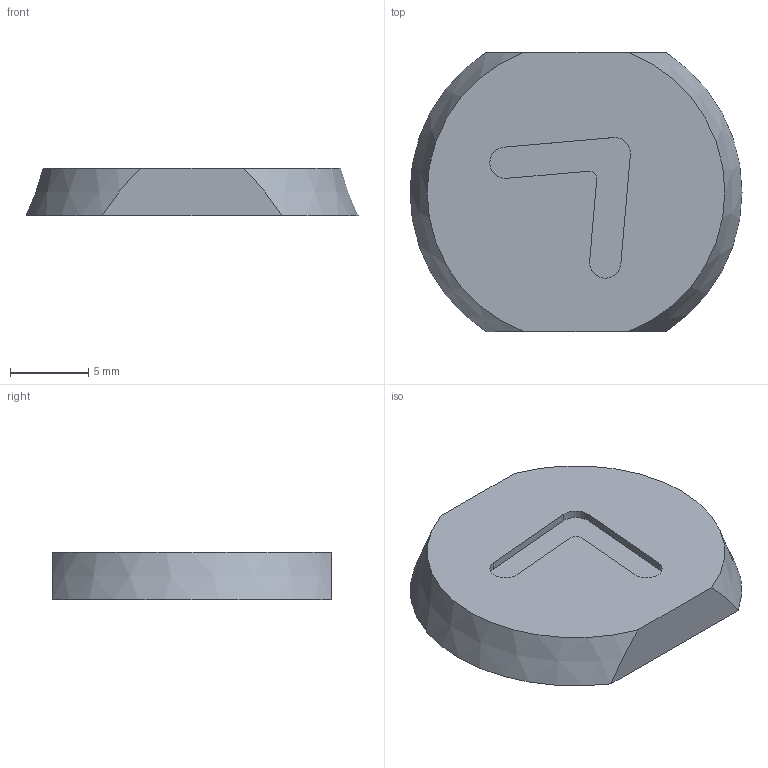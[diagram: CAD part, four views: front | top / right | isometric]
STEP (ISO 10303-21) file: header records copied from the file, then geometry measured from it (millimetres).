
FILE_DESCRIPTION(/* description */ (''),/* implementation_level */ '2;1');
FILE_NAME(/* name */ 'button_cap_tr.stp',/* time_stamp */ '2019-01-13T14:31:48+01:00',/* author */ (''),/* organization */ (''),/* preprocessor_version */ 'ST-DEVELOPER v16',/* originating_system */ 'SIEMENS PLM Software NX 11.0',/* authorisation */ '');
FILE_SCHEMA (('AUTOMOTIVE_DESIGN { 1 0 10303 214 3 1 1 1 }'));
Length unit declared in the file: millimetre
Products named in the file (1): button_cap_tr
Bounding box: 21.18 x 17.8 x 3 mm (x, y, z)
Volume: 880.2 mm3; surface area: 825.9 mm2
Topology: 1 solids, 1 shells, 17 faces, 39 edges, 26 vertices
Faces by surface type: plane 10, cylinder 5, cone 2
Full cylindrical faces by diameter (mm): 5 x1
Entity records: 510 total; most frequent: CARTESIAN_POINT 94, DIRECTION 84, ORIENTED_EDGE 76, EDGE_CURVE 38, AXIS2_PLACEMENT_3D 32, VERTEX_POINT 26, LINE 20, VECTOR 20
